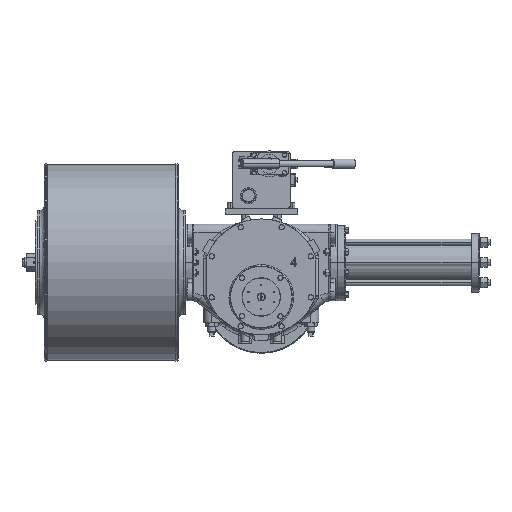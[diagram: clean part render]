
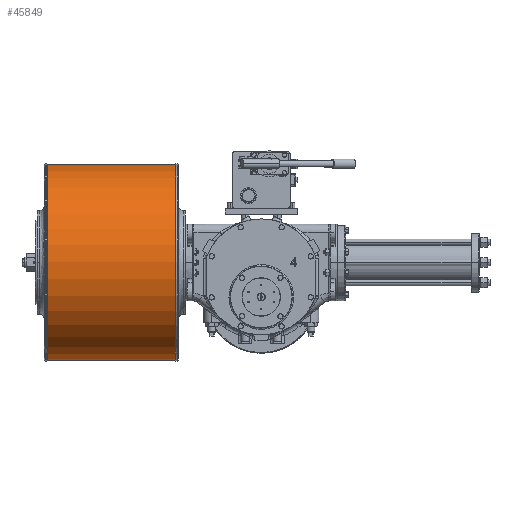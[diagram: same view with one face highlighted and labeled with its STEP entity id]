
A CAD part, top view. The second image highlights one B-rep face of the part: STEP entity #45849.
In plain terms, the highlighted cylindrical face has radius 304.8 mm (diameter 609.6 mm), a partial arc.
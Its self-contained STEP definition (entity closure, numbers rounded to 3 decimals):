
#1205 = CARTESIAN_POINT ( 'NONE',  ( -268.5, -196.8, 82.5 ) ) ;
#2027 = VECTOR ( 'NONE', #22433, 1000. ) ;
#2478 = CIRCLE ( 'NONE', #41204, 304.8 ) ;
#6485 = ORIENTED_EDGE ( 'NONE', *, *, #90652, .F. ) ;
#6844 = CARTESIAN_POINT ( 'NONE',  ( -268.5, 108., 82.5 ) ) ;
#13756 = EDGE_CURVE ( 'NONE', #36157, #22155, #44866, .T. ) ;
#14532 = CARTESIAN_POINT ( 'NONE',  ( -268.5, 412.8, 82.5 ) ) ;
#14908 = DIRECTION ( 'NONE',  ( -1., 0., 0. ) ) ;
#16370 = EDGE_LOOP ( 'NONE', ( #74432, #45966, #78311, #6485 ) ) ;
#19518 = DIRECTION ( 'NONE',  ( 1., 0., 0. ) ) ;
#21480 = DIRECTION ( 'NONE',  ( 0., -1., 0. ) ) ;
#22155 = VERTEX_POINT ( 'NONE', #43812 ) ;
#22433 = DIRECTION ( 'NONE',  ( -1., 0., 0. ) ) ;
#24619 = CARTESIAN_POINT ( 'NONE',  ( -268.5, 108., 82.5 ) ) ;
#24709 = CARTESIAN_POINT ( 'NONE',  ( -268.5, 412.8, 82.5 ) ) ;
#32688 = EDGE_CURVE ( 'NONE', #49637, #36157, #74489, .T. ) ;
#36157 = VERTEX_POINT ( 'NONE', #24709 ) ;
#36335 = AXIS2_PLACEMENT_3D ( 'NONE', #24619, #86774, #47377 ) ;
#37589 = CARTESIAN_POINT ( 'NONE',  ( -268.5, -196.8, 82.5 ) ) ;
#40485 = VECTOR ( 'NONE', #77697, 1000. ) ;
#41204 = AXIS2_PLACEMENT_3D ( 'NONE', #41762, #19518, #72596 ) ;
#41762 = CARTESIAN_POINT ( 'NONE',  ( -668.5, 108., 82.5 ) ) ;
#43812 = CARTESIAN_POINT ( 'NONE',  ( -668.5, 412.8, 82.5 ) ) ;
#44866 = LINE ( 'NONE', #14532, #40485 ) ;
#45849 = ADVANCED_FACE ( 'NONE', ( #98956 ), #91850, .T. ) ;
#45966 = ORIENTED_EDGE ( 'NONE', *, *, #13756, .T. ) ;
#45991 = EDGE_CURVE ( 'NONE', #22155, #93383, #2478, .T. ) ;
#47377 = DIRECTION ( 'NONE',  ( 0., -1., 0. ) ) ;
#49637 = VERTEX_POINT ( 'NONE', #1205 ) ;
#59984 = AXIS2_PLACEMENT_3D ( 'NONE', #6844, #14908, #21480 ) ;
#72596 = DIRECTION ( 'NONE',  ( 0., -1., 0. ) ) ;
#74432 = ORIENTED_EDGE ( 'NONE', *, *, #32688, .T. ) ;
#74489 = CIRCLE ( 'NONE', #59984, 304.8 ) ;
#77697 = DIRECTION ( 'NONE',  ( -1., 0., 0. ) ) ;
#77752 = CARTESIAN_POINT ( 'NONE',  ( -668.5, -196.8, 82.5 ) ) ;
#78311 = ORIENTED_EDGE ( 'NONE', *, *, #45991, .T. ) ;
#85621 = LINE ( 'NONE', #37589, #2027 ) ;
#86774 = DIRECTION ( 'NONE',  ( -1., 0., 0. ) ) ;
#90652 = EDGE_CURVE ( 'NONE', #49637, #93383, #85621, .T. ) ;
#91850 = CYLINDRICAL_SURFACE ( 'NONE', #36335, 304.8 ) ;
#93383 = VERTEX_POINT ( 'NONE', #77752 ) ;
#98956 = FACE_OUTER_BOUND ( 'NONE', #16370, .T. ) ;
